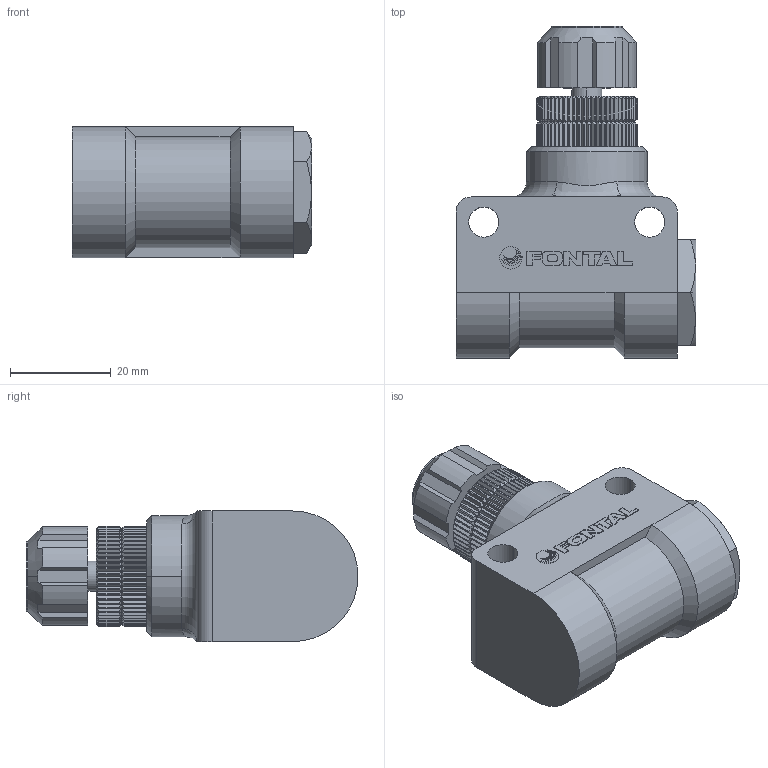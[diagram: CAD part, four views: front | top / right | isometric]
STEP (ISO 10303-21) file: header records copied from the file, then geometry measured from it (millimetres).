
FILE_DESCRIPTION (( 'STEP AP203' ), '1' );
FILE_NAME ('SP-06-2.STEP', '2016-01-14T20:16:17', ( '' ), ( '' ), 'SwSTEP 2.0', 'SolidWorks 2014', '' );
FILE_SCHEMA (( 'CONFIG_CONTROL_DESIGN' ));
Length unit declared in the file: millimetre
Products named in the file (8): SP-06-5; SP-06-4; SP-06-2-2; SP-06-6; SP-06-1; SP-06-3; SP-06-2; ZH-2H-MARK
Assembly tree (7 placements, depth 2):
  SP-06-2
    SP-06-1
    SP-06-3
    SP-06-4
    SP-06-5
    SP-06-6
    SP-06-2-2
    ZH-2H-MARK
Bounding box: 47.7 x 66 x 26.12 mm (x, y, z)
Volume: 42260.9 mm3; surface area: 12042 mm2
Topology: 13 solids, 13 shells, 666 faces, 1661 edges, 1021 vertices
Faces by surface type: plane 357, cylinder 164, cone 132, bspline 10, torus 3
Entity records: 21023 total; most frequent: CARTESIAN_POINT 4846, ORIENTED_EDGE 3322, DIRECTION 3051, EDGE_CURVE 1661, AXIS2_PLACEMENT_3D 1134, VERTEX_POINT 1021, LINE 783, VECTOR 783
